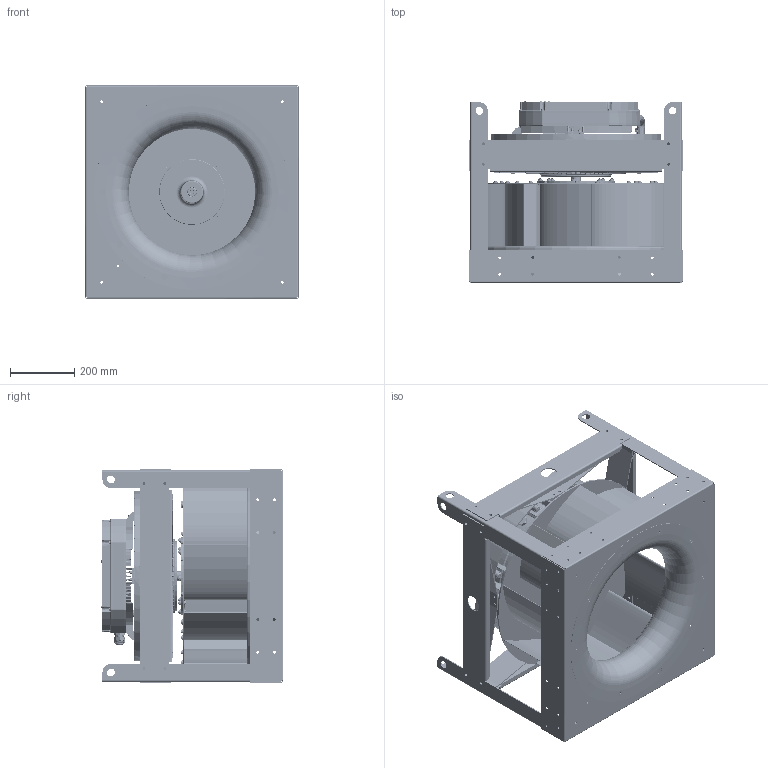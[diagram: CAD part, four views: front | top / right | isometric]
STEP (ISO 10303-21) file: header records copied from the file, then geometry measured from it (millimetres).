
FILE_DESCRIPTION (( 'STEP AP214' ), '1' );
FILE_NAME ('655774.STEP', '2026-06-10T20:05:59', ( '' ), ( '' ), 'SwSTEP 2.0', 'SolidWorks 2023', '' );
FILE_SCHEMA (( 'AUTOMOTIVE_DESIGN' ));
Length unit declared in the file: inch
Products named in the file (18): SXP24 INLET ASSY_655568; SXP24-9 FP_651374; SXP24-9 BP_651497; 941456_941456; SXP24 BAFFLE_682867; SXPI STRAP_651579; 655774; 941457_941457; 941044_941044; SXP24 WHEEL ASSY_655674; 681533_681533; SXP24 INLET_651355; 651582_651582; SXP24 WHEEL WELDMENT_655673; SXP24 BLADE_651372; 925959CS_925959CS; 651583_651583; 651584_651584
Assembly tree (86 placements, depth 4):
  655774
    651582_651582
    651584_651584  x4
    651583_651583  x4
    SXPI STRAP_651579  x4
    925959CS_925959CS
    SXP24 WHEEL ASSY_655674
      SXP24 WHEEL WELDMENT_655673
        SXP24-9 FP_651374
        SXP24 BLADE_651372  x9
        SXP24-9 BP_651497
        941044_941044  x36
      681533_681533
      941456_941456  x8
      941457_941457  x8
    SXP24 INLET ASSY_655568
      SXP24 INLET_651355
      SXP24 BAFFLE_682867  x4
Bounding box: 662.27 x 567.06 x 662.27 mm (x, y, z)
Volume: 8671008.5 mm3; surface area: 6949336.8 mm2
Topology: 82 solids, 374 shells, 6435 faces, 18807 edges, 12588 vertices
Faces by surface type: cylinder 1842, plane 1722, bspline 1409, cone 1053, torus 317, sphere 92
Full cylindrical faces by diameter (mm): 2.9 x2, 4.762 x1, 4.763 x17, 5.105 x16, 5.156 x10, 6 x37, 6.35 x46, 7 x5, 7.137 x64, 7.544 x2, 7.937 x3, 7.938 x1, 7.95 x2, 8.5 x1, 8.738 x87, 9 x4, 9.73 x8, 10 x8, 10.1 x1, 11.8 x16, 12.5 x1, 12.6 x1, 13 x15, 13.208 x44, 14 x1, 15.088 x8, 17.462 x2, 17.463 x2, 20.32 x10, 23.5 x1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
Entity records: 272281 total; most frequent: CARTESIAN_POINT 179086, ORIENTED_EDGE 18064, DIRECTION 16947, EDGE_CURVE 11420, VERTEX_POINT 8202, AXIS2_PLACEMENT_3D 6948, EDGE_LOOP 4945, CIRCLE 4130
